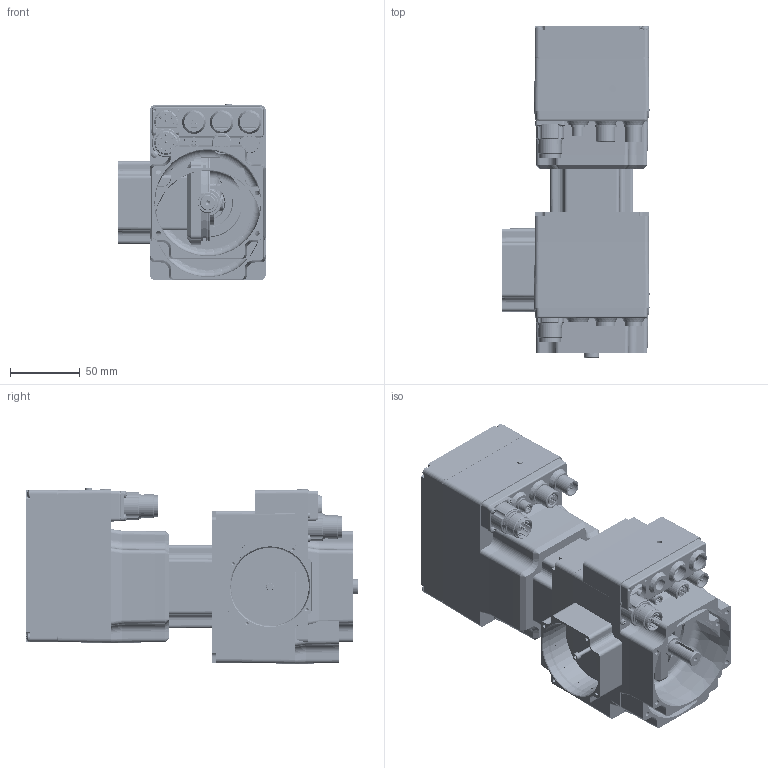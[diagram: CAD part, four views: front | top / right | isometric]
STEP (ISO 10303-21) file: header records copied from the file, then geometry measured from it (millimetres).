
FILE_DESCRIPTION( ( 'Unknown' ), '1' );
FILE_NAME( 'C:/Users/dotti/Desktop/Q0A176/Q0A176_0,65.stp', 'Unknown', ( 'Unknown' ), ( 'Unknown' ), 'PSStep 14.0', 'Unknown', ' ' );
FILE_SCHEMA( ( 'AUTOMOTIVE_DESIGN { 1 0 10303 214 1 1 1 1 }' ) );
Length unit declared in the file: millimetre
Products named in the file (45): T00273; Assem1; 005117000974; N54236; CN M23 PAN-POT BEGA 906 4+5p; VECST-8112 M  2,5 x 12; 005117000476; G00030; Anello-elastico-chiuso  32; A-Ela  15; Vite a brugola testa cil 8,8 -  M  3 x 18; Vite a brugola testa cil 8,8 -  M  3 x 18-oa0; Vite a brugola testa cil 8,8 -  M  3 x 18-oa1; Vite a brugola testa cil 8,8 -  M  3 x 18-oa2; CUSC_15_32_9_6002_ZZ; CUSC_10_26_8_6000_ZZ; Vite a brugola testa cil 8,8 -  M  3 x 40; N45018; Vite a brugola testa cil 8,8 -  M  3 x 10; Anello OR 1,78 D47,37-2187-oa3; Anello OR 1,78 D47,37-2187-oa4; Anello OR 1,78 D72,75-2287-oa5; 005007000200; anello di rasamento 19_26_0,3; N35217; Anello OR 1,78 D25,12-2100-oa6; VECST-8112 M  3 x 30; 003016000054; 003251021030; LI-PIA   4x4 x 18; 003003007238; 003120002070; N54239
Bounding box: 105.75 x 238.64 x 126.21 mm (x, y, z)
Volume: 817403.1 mm3; surface area: 471338.1 mm2
Topology: 108 solids, 112 shells, 7623 faces, 20683 edges, 13541 vertices
Faces by surface type: plane 4137, cylinder 2589, cone 324, bspline 319, torus 205, sphere 49
Full cylindrical faces by diameter (mm): 1 x39, 1.5 x42, 1.7 x34, 2.4 x24, 2.459 x56, 2.5 x17, 2.7 x12, 3 x23, 3.242 x6, 3.5 x50, 4 x5, 4.2 x2, 5 x11, 5.5 x20, 6 x28, 8 x3, 8.5 x9, 8.75 x3, 9 x6, 9.98 x2, 10 x7, 11 x17, 11.9 x6, 12 x9, 14 x6, 14.3 x2, 14.4 x3, 14.5 x3, 15 x6, 15.12 x8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
Entity records: 107298 total; most frequent: CARTESIAN_POINT 28376, ORIENTED_EDGE 13752, DIRECTION 13543, EDGE_CURVE 6876, AXIS2_PLACEMENT_3D 4869, VERTEX_POINT 4705, LINE 3805, VECTOR 3805
